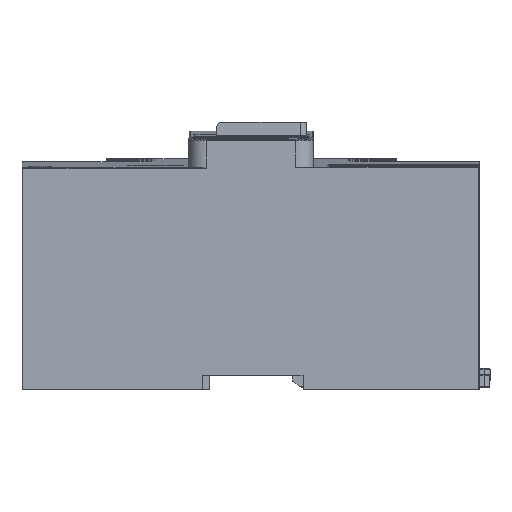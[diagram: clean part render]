
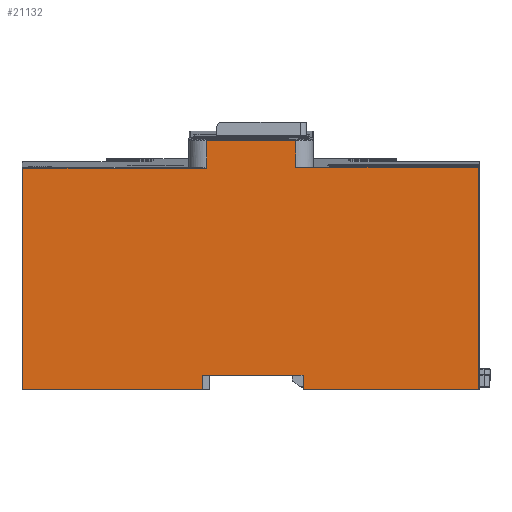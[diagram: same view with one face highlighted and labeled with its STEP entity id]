
A CAD part, left-side view. The second image highlights one B-rep face of the part: STEP entity #21132.
In plain terms, the highlighted planar face has unit normal (-1, 0, 0).
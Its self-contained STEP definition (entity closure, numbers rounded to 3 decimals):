
#14=DIRECTION('',(0.,-1.,0.));
#15=VECTOR('',#14,63.113);
#16=CARTESIAN_POINT('',(0.,67.213,0.));
#17=LINE('',#16,#15);
#18=DIRECTION('',(0.,0.,1.));
#19=VECTOR('',#18,80.003);
#20=CARTESIAN_POINT('',(0.,4.1,0.));
#21=LINE('',#20,#19);
#22=DIRECTION('',(0.,0.,1.));
#23=VECTOR('',#22,5.2);
#24=CARTESIAN_POINT('',(0.,67.213,0.));
#25=LINE('',#24,#23);
#26=DIRECTION('',(0.,1.,0.));
#27=VECTOR('',#26,36.175);
#28=CARTESIAN_POINT('',(0.,67.213,5.2));
#29=LINE('',#28,#27);
#34=DIRECTION('',(0.,0.,-1.));
#35=VECTOR('',#34,79.706);
#36=CARTESIAN_POINT('',(0.,167.919,79.706));
#37=LINE('',#36,#35);
#43=DIRECTION('',(0.,-1.,0.));
#44=VECTOR('',#43,64.532);
#45=CARTESIAN_POINT('',(0.,167.919,0.));
#46=LINE('',#45,#44);
#59=DIRECTION('',(0.,0.,1.));
#60=VECTOR('',#59,5.2);
#61=CARTESIAN_POINT('',(0.,103.387,0.));
#62=LINE('',#61,#60);
#773=DIRECTION('',(0.,1.,0.));
#774=VECTOR('',#773,65.769);
#775=CARTESIAN_POINT('',(0.,4.1,80.003));
#776=LINE('',#775,#774);
#2070=DIRECTION('',(0.,1.,0.));
#2071=VECTOR('',#2070,66.024);
#2072=CARTESIAN_POINT('',(0.,101.895,79.706));
#2073=LINE('',#2072,#2071);
#2095=DIRECTION('',(0.,0.,-1.));
#2096=VECTOR('',#2095,9.9);
#2097=CARTESIAN_POINT('',(0.,101.895,89.606));
#2098=LINE('',#2097,#2096);
#2228=DIRECTION('',(0.,0.,1.));
#2229=VECTOR('',#2228,9.603);
#2230=CARTESIAN_POINT('',(0.,69.869,80.003));
#2231=LINE('',#2230,#2229);
#2402=DIRECTION('',(0.,1.,0.));
#2403=VECTOR('',#2402,32.025);
#2404=CARTESIAN_POINT('',(0.,69.869,89.606));
#2405=LINE('',#2404,#2403);
#8659=CARTESIAN_POINT('',(0.,67.213,0.));
#16481=CARTESIAN_POINT('',(0.,4.1,0.));
#16483=VERTEX_POINT('',#16481);
#16489=VERTEX_POINT('',#8659);
#16490=CARTESIAN_POINT('',(0.,4.1,80.003));
#16491=VERTEX_POINT('',#16490);
#16493=CARTESIAN_POINT('',(0.,167.919,79.706));
#16494=CARTESIAN_POINT('',(0.,167.919,0.));
#16495=VERTEX_POINT('',#16493);
#16496=VERTEX_POINT('',#16494);
#16497=CARTESIAN_POINT('',(0.,101.895,79.706));
#16498=VERTEX_POINT('',#16497);
#16499=CARTESIAN_POINT('',(0.,101.895,
89.606));
#16500=VERTEX_POINT('',#16499);
#16501=CARTESIAN_POINT('',(0.,69.869,
89.606));
#16502=VERTEX_POINT('',#16501);
#16503=CARTESIAN_POINT('',(0.,69.869,80.003));
#16504=VERTEX_POINT('',#16503);
#16505=CARTESIAN_POINT('',(0.,67.213,5.2));
#16506=VERTEX_POINT('',#16505);
#16507=CARTESIAN_POINT('',(0.,103.387,5.2));
#16508=VERTEX_POINT('',#16507);
#16509=CARTESIAN_POINT('',(0.,103.387,0.));
#16510=VERTEX_POINT('',#16509);
#21103=CARTESIAN_POINT('',(0.,168.219,0.));
#21104=DIRECTION('',(-1.,0.,0.));
#21105=DIRECTION('',(0.,-1.,0.));
#21106=AXIS2_PLACEMENT_3D('',#21103,#21104,#21105);
#21107=PLANE('',#21106);
#21109=ORIENTED_EDGE('',*,*,#21108,.F.);
#21111=ORIENTED_EDGE('',*,*,#21110,.F.);
#21113=ORIENTED_EDGE('',*,*,#21112,.F.);
#21115=ORIENTED_EDGE('',*,*,#21114,.F.);
#21117=ORIENTED_EDGE('',*,*,#21116,.F.);
#21119=ORIENTED_EDGE('',*,*,#21118,.F.);
#21120=ORIENTED_EDGE('',*,*,#21094,.F.);
#21121=ORIENTED_EDGE('',*,*,#21083,.F.);
#21123=ORIENTED_EDGE('',*,*,#21122,.T.);
#21125=ORIENTED_EDGE('',*,*,#21124,.T.);
#21127=ORIENTED_EDGE('',*,*,#21126,.F.);
#21129=ORIENTED_EDGE('',*,*,#21128,.F.);
#21130=EDGE_LOOP('',(#21109,#21111,#21113,#21115,#21117,#21119,#21120,#21121,
#21123,#21125,#21127,#21129));
#21131=FACE_OUTER_BOUND('',#21130,.F.);
#21132=ADVANCED_FACE('',(#21131),#21107,.T.);
#21083=EDGE_CURVE('',#16489,#16483,#17,.T.);
#21094=EDGE_CURVE('',#16483,#16491,#21,.T.);
#21108=EDGE_CURVE('',#16495,#16496,#37,.T.);
#21110=EDGE_CURVE('',#16498,#16495,#2073,.T.);
#21112=EDGE_CURVE('',#16500,#16498,#2098,.T.);
#21114=EDGE_CURVE('',#16502,#16500,#2405,.T.);
#21116=EDGE_CURVE('',#16504,#16502,#2231,.T.);
#21118=EDGE_CURVE('',#16491,#16504,#776,.T.);
#21122=EDGE_CURVE('',#16489,#16506,#25,.T.);
#21124=EDGE_CURVE('',#16506,#16508,#29,.T.);
#21126=EDGE_CURVE('',#16510,#16508,#62,.T.);
#21128=EDGE_CURVE('',#16496,#16510,#46,.T.);
